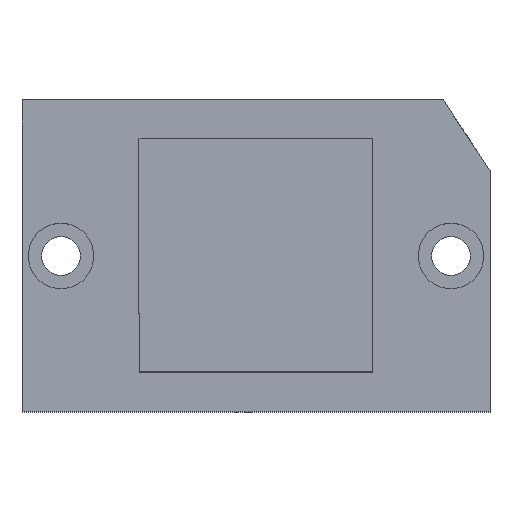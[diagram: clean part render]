
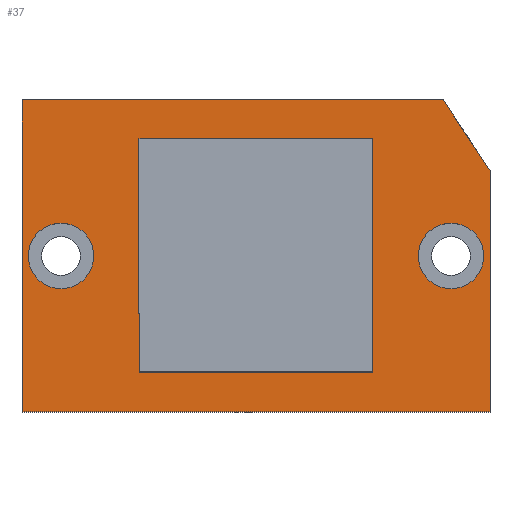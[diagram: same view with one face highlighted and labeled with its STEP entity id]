
A CAD part, top view. The second image highlights one B-rep face of the part: STEP entity #37.
In plain terms, the highlighted planar face has unit normal (0, 0, 1).
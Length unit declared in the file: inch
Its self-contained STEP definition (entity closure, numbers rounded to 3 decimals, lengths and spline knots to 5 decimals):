
#2 = DIRECTION ( 'NONE',  ( 0., 0., 1. ) ) ;
#16 = DIRECTION ( 'NONE',  ( 1., 0., 0. ) ) ;
#25 = VERTEX_POINT ( 'NONE', #235 ) ;
#33 = EDGE_CURVE ( 'NONE', #345, #264, #471, .T. ) ;
#37 = ADVANCED_FACE ( 'NONE', ( #239, #197, #154, #106 ), #215, .T. ) ;
#70 = EDGE_CURVE ( 'NONE', #25, #658, #1193, .T. ) ;
#81 = DIRECTION ( 'NONE',  ( 1., 0., 0. ) ) ;
#106 = FACE_BOUND ( 'NONE', #301, .T. ) ;
#107 = AXIS2_PLACEMENT_3D ( 'NONE', #628, #615, #718 ) ;
#118 = CARTESIAN_POINT ( 'NONE',  ( 0.77286, -0.01143, 0.5 ) ) ;
#120 = DIRECTION ( 'NONE',  ( 0., 0., 1. ) ) ;
#122 = DIRECTION ( 'NONE',  ( 1., 0., 0. ) ) ;
#134 = DIRECTION ( 'NONE',  ( 0., -1., 0. ) ) ;
#137 = CARTESIAN_POINT ( 'NONE',  ( -1.22714, 0.73857, 0.5 ) ) ;
#154 = FACE_BOUND ( 'NONE', #1255, .T. ) ;
#165 = VERTEX_POINT ( 'NONE', #451 ) ;
#181 = VECTOR ( 'NONE', #733, 39.37008 ) ;
#187 = VECTOR ( 'NONE', #363, 39.37008 ) ;
#197 = FACE_BOUND ( 'NONE', #246, .T. ) ;
#206 = CIRCLE ( 'NONE', #107, 0.21 ) ;
#208 = EDGE_CURVE ( 'NONE', #658, #25, #206, .T. ) ;
#215 = PLANE ( 'NONE',  #270 ) ;
#235 = CARTESIAN_POINT ( 'NONE',  ( 0.98286, -0.01143, 0.5 ) ) ;
#239 = FACE_OUTER_BOUND ( 'NONE', #300, .T. ) ;
#244 = CARTESIAN_POINT ( 'NONE',  ( 0., 0., 0.5 ) ) ;
#246 = EDGE_LOOP ( 'NONE', ( #1142, #1050 ) ) ;
#256 = VECTOR ( 'NONE', #299, 39.37008 ) ;
#264 = VERTEX_POINT ( 'NONE', #1125 ) ;
#270 = AXIS2_PLACEMENT_3D ( 'NONE', #244, #2, #16 ) ;
#289 = CARTESIAN_POINT ( 'NONE',  ( -1.22714, 0.73857, 0.5 ) ) ;
#295 = DIRECTION ( 'NONE',  ( -1., 0., 0. ) ) ;
#297 = LINE ( 'NONE', #727, #181 ) ;
#299 = DIRECTION ( 'NONE',  ( 0., 1., 0. ) ) ;
#300 = EDGE_LOOP ( 'NONE', ( #478, #1241, #1229, #1213, #1200 ) ) ;
#301 = EDGE_LOOP ( 'NONE', ( #501, #417, #369, #333 ) ) ;
#302 = DIRECTION ( 'NONE',  ( 0., -1., 0. ) ) ;
#324 = DIRECTION ( 'NONE',  ( 1., 0., 0. ) ) ;
#333 = ORIENTED_EDGE ( 'NONE', *, *, #625, .F. ) ;
#345 = VERTEX_POINT ( 'NONE', #1110 ) ;
#349 = CARTESIAN_POINT ( 'NONE',  ( 1.02286, 0.53788, 0.5 ) ) ;
#353 = CARTESIAN_POINT ( 'NONE',  ( -1.72714, -0.01143, 0.5 ) ) ;
#357 = DIRECTION ( 'NONE',  ( 0., 0., 1. ) ) ;
#358 = DIRECTION ( 'NONE',  ( 1., 0., 0. ) ) ;
#363 = DIRECTION ( 'NONE',  ( -0.555, 0.832, 0. ) ) ;
#369 = ORIENTED_EDGE ( 'NONE', *, *, #33, .F. ) ;
#393 = CARTESIAN_POINT ( 'NONE',  ( -1.97714, -1.01143, 0.5 ) ) ;
#395 = VECTOR ( 'NONE', #662, 39.37008 ) ;
#400 = EDGE_CURVE ( 'NONE', #165, #725, #757, .T. ) ;
#414 = LINE ( 'NONE', #758, #395 ) ;
#417 = ORIENTED_EDGE ( 'NONE', *, *, #444, .F. ) ;
#420 = LINE ( 'NONE', #349, #187 ) ;
#444 = EDGE_CURVE ( 'NONE', #264, #1047, #867, .T. ) ;
#451 = CARTESIAN_POINT ( 'NONE',  ( -1.97714, 0.98857, 0.5 ) ) ;
#471 = LINE ( 'NONE', #783, #256 ) ;
#472 = EDGE_CURVE ( 'NONE', #1047, #1080, #1222, .T. ) ;
#477 = CIRCLE ( 'NONE', #529, 0.21 ) ;
#478 = ORIENTED_EDGE ( 'NONE', *, *, #521, .T. ) ;
#501 = ORIENTED_EDGE ( 'NONE', *, *, #472, .F. ) ;
#510 = EDGE_CURVE ( 'NONE', #764, #1046, #526, .T. ) ;
#521 = EDGE_CURVE ( 'NONE', #869, #787, #420, .T. ) ;
#526 = CIRCLE ( 'NONE', #621, 0.21 ) ;
#529 = AXIS2_PLACEMENT_3D ( 'NONE', #706, #709, #711 ) ;
#534 = EDGE_CURVE ( 'NONE', #725, #677, #1215, .T. ) ;
#589 = ORIENTED_EDGE ( 'NONE', *, *, #208, .F. ) ;
#615 = DIRECTION ( 'NONE',  ( 0., 0., 1. ) ) ;
#621 = AXIS2_PLACEMENT_3D ( 'NONE', #353, #357, #358 ) ;
#625 = EDGE_CURVE ( 'NONE', #1080, #345, #1204, .T. ) ;
#628 = CARTESIAN_POINT ( 'NONE',  ( 0.77286, -0.01143, 0.5 ) ) ;
#636 = ORIENTED_EDGE ( 'NONE', *, *, #70, .F. ) ;
#643 = CARTESIAN_POINT ( 'NONE',  ( 0.56286, -0.01143, 0.5 ) ) ;
#646 = CARTESIAN_POINT ( 'NONE',  ( -1.22714, -0.75643, 0.5 ) ) ;
#658 = VERTEX_POINT ( 'NONE', #643 ) ;
#662 = DIRECTION ( 'NONE',  ( -1., 0., 0. ) ) ;
#667 = EDGE_CURVE ( 'NONE', #787, #165, #414, .T. ) ;
#669 = VECTOR ( 'NONE', #134, 39.37008 ) ;
#672 = CARTESIAN_POINT ( 'NONE',  ( -1.97714, -1.01143, 0.5 ) ) ;
#677 = VERTEX_POINT ( 'NONE', #695 ) ;
#687 = EDGE_CURVE ( 'NONE', #1046, #764, #477, .T. ) ;
#693 = VECTOR ( 'NONE', #81, 39.37008 ) ;
#695 = CARTESIAN_POINT ( 'NONE',  ( 1.02286, -1.01143, 0.5 ) ) ;
#706 = CARTESIAN_POINT ( 'NONE',  ( -1.72714, -0.01143, 0.5 ) ) ;
#709 = DIRECTION ( 'NONE',  ( 0., 0., 1. ) ) ;
#711 = DIRECTION ( 'NONE',  ( 1., 0., 0. ) ) ;
#716 = EDGE_CURVE ( 'NONE', #677, #869, #297, .T. ) ;
#718 = DIRECTION ( 'NONE',  ( 1., 0., 0. ) ) ;
#725 = VERTEX_POINT ( 'NONE', #672 ) ;
#727 = CARTESIAN_POINT ( 'NONE',  ( 1.02286, 0.98857, 0.5 ) ) ;
#733 = DIRECTION ( 'NONE',  ( 0., 1., 0. ) ) ;
#741 = CARTESIAN_POINT ( 'NONE',  ( 0.72239, 0.98857, 0.5 ) ) ;
#743 = VECTOR ( 'NONE', #324, 39.37008 ) ;
#746 = VECTOR ( 'NONE', #295, 39.37008 ) ;
#753 = CARTESIAN_POINT ( 'NONE',  ( -1.51714, -0.01143, 0.5 ) ) ;
#757 = LINE ( 'NONE', #1268, #669 ) ;
#758 = CARTESIAN_POINT ( 'NONE',  ( -1.97714, 0.98857, 0.5 ) ) ;
#764 = VERTEX_POINT ( 'NONE', #753 ) ;
#783 = CARTESIAN_POINT ( 'NONE',  ( 0.26786, 0.73857, 0.5 ) ) ;
#787 = VERTEX_POINT ( 'NONE', #741 ) ;
#790 = CARTESIAN_POINT ( 'NONE',  ( 1.02286, 0.53788, 0.5 ) ) ;
#867 = LINE ( 'NONE', #137, #746 ) ;
#869 = VERTEX_POINT ( 'NONE', #790 ) ;
#871 = CARTESIAN_POINT ( 'NONE',  ( -1.22714, -0.75643, 0.5 ) ) ;
#908 = CARTESIAN_POINT ( 'NONE',  ( -1.93714, -0.01143, 0.5 ) ) ;
#917 = CARTESIAN_POINT ( 'NONE',  ( -1.22714, 0.73857, 0.5 ) ) ;
#933 = AXIS2_PLACEMENT_3D ( 'NONE', #118, #120, #122 ) ;
#1046 = VERTEX_POINT ( 'NONE', #908 ) ;
#1047 = VERTEX_POINT ( 'NONE', #917 ) ;
#1050 = ORIENTED_EDGE ( 'NONE', *, *, #687, .F. ) ;
#1051 = VECTOR ( 'NONE', #302, 39.37008 ) ;
#1080 = VERTEX_POINT ( 'NONE', #871 ) ;
#1110 = CARTESIAN_POINT ( 'NONE',  ( 0.26786, -0.75643, 0.5 ) ) ;
#1125 = CARTESIAN_POINT ( 'NONE',  ( 0.26786, 0.73857, 0.5 ) ) ;
#1142 = ORIENTED_EDGE ( 'NONE', *, *, #510, .F. ) ;
#1193 = CIRCLE ( 'NONE', #933, 0.21 ) ;
#1200 = ORIENTED_EDGE ( 'NONE', *, *, #716, .T. ) ;
#1204 = LINE ( 'NONE', #646, #743 ) ;
#1213 = ORIENTED_EDGE ( 'NONE', *, *, #534, .T. ) ;
#1215 = LINE ( 'NONE', #393, #693 ) ;
#1222 = LINE ( 'NONE', #289, #1051 ) ;
#1229 = ORIENTED_EDGE ( 'NONE', *, *, #400, .T. ) ;
#1241 = ORIENTED_EDGE ( 'NONE', *, *, #667, .T. ) ;
#1255 = EDGE_LOOP ( 'NONE', ( #636, #589 ) ) ;
#1268 = CARTESIAN_POINT ( 'NONE',  ( -1.97714, 0.98857, 0.5 ) ) ;
